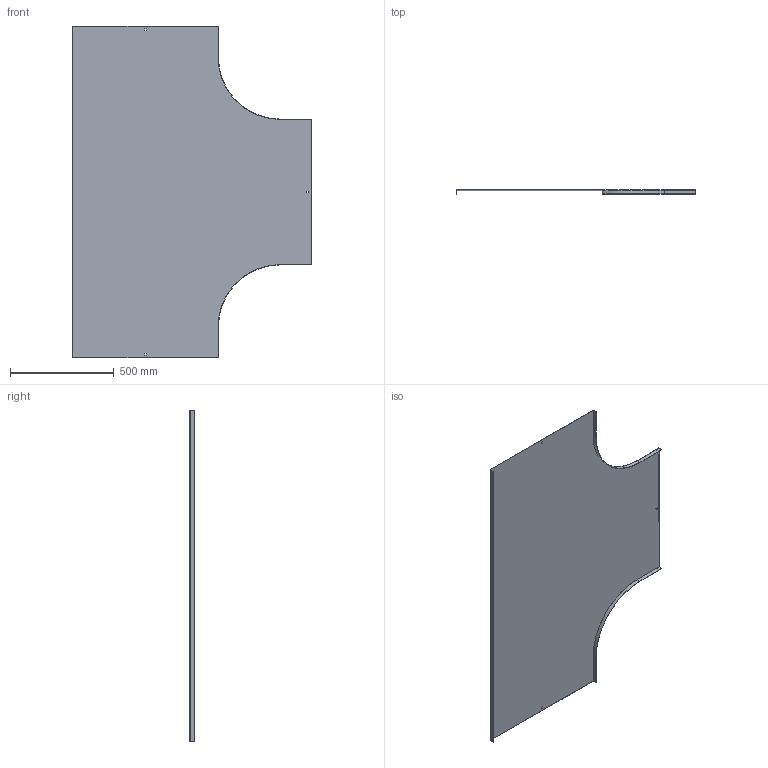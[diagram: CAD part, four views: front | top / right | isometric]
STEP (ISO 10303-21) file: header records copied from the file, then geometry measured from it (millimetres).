
FILE_DESCRIPTION (( 'STEP AP214' ), '1' );
FILE_NAME ('A2_15N3R700.step', '2025-02-21T12:06:45', ( '' ), ( '' ), 'SwSTEP 2.0', 'SolidWorks 2023', '' );
FILE_SCHEMA (( 'AUTOMOTIVE_DESIGN' ));
Length unit declared in the file: millimetre
Products named in the file (1): A2_15N3R700
Bounding box: 1151.5 x 20 x 1600 mm (x, y, z)
Volume: 2304382.9 mm3; surface area: 3080686.7 mm2
Topology: 1 solids, 1 shells, 34 faces, 96 edges, 64 vertices
Faces by surface type: plane 30, cylinder 4
Entity records: 1123 total; most frequent: CARTESIAN_POINT 195, ORIENTED_EDGE 192, DIRECTION 174, EDGE_CURVE 96, LINE 88, VECTOR 88, VERTEX_POINT 64, AXIS2_PLACEMENT_3D 43
